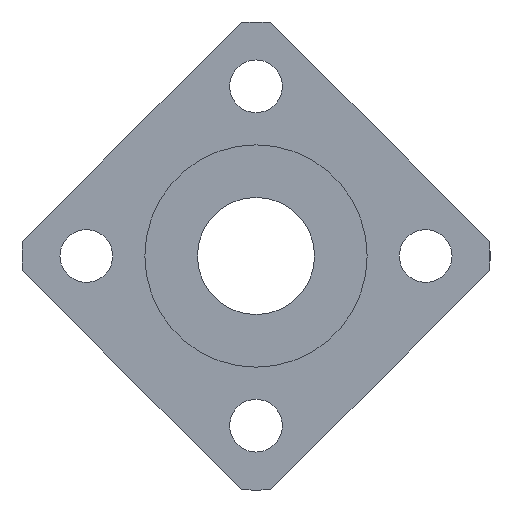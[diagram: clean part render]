
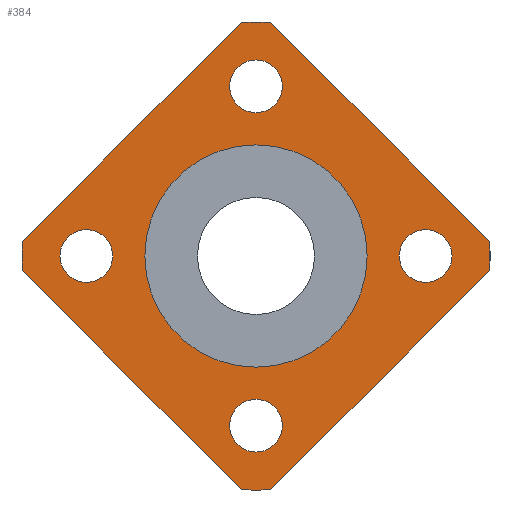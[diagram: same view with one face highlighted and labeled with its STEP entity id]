
A CAD part, left-side view. The second image highlights one B-rep face of the part: STEP entity #384.
In plain terms, the highlighted planar face has unit normal (-1, 0, 0).
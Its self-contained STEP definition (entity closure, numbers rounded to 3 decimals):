
#26=PLANE('',#445);
#41=LINE('',#664,#57);
#42=LINE('',#665,#58);
#43=LINE('',#666,#59);
#44=LINE('',#670,#60);
#57=VECTOR('',#546,1000.);
#58=VECTOR('',#547,1000.);
#59=VECTOR('',#548,1000.);
#60=VECTOR('',#551,1000.);
#102=ORIENTED_EDGE('',*,*,#184,.T.);
#103=ORIENTED_EDGE('',*,*,#155,.F.);
#104=ORIENTED_EDGE('',*,*,#185,.T.);
#105=ORIENTED_EDGE('',*,*,#159,.F.);
#106=ORIENTED_EDGE('',*,*,#186,.T.);
#107=ORIENTED_EDGE('',*,*,#187,.F.);
#108=ORIENTED_EDGE('',*,*,#188,.T.);
#109=ORIENTED_EDGE('',*,*,#153,.F.);
#110=ORIENTED_EDGE('',*,*,#189,.T.);
#111=ORIENTED_EDGE('',*,*,#190,.T.);
#112=ORIENTED_EDGE('',*,*,#191,.T.);
#113=ORIENTED_EDGE('',*,*,#192,.T.);
#114=ORIENTED_EDGE('',*,*,#172,.T.);
#153=EDGE_CURVE('',#197,#198,#232,.T.);
#155=EDGE_CURVE('',#199,#200,#233,.T.);
#159=EDGE_CURVE('',#203,#204,#235,.T.);
#172=EDGE_CURVE('',#216,#216,#246,.T.);
#184=EDGE_CURVE('',#197,#200,#41,.T.);
#185=EDGE_CURVE('',#199,#204,#42,.T.);
#186=EDGE_CURVE('',#203,#225,#43,.T.);
#187=EDGE_CURVE('',#226,#225,#254,.T.);
#188=EDGE_CURVE('',#226,#198,#44,.T.);
#189=EDGE_CURVE('',#227,#227,#255,.T.);
#190=EDGE_CURVE('',#228,#228,#256,.T.);
#191=EDGE_CURVE('',#229,#229,#257,.T.);
#192=EDGE_CURVE('',#230,#230,#258,.T.);
#197=VERTEX_POINT('',#594);
#198=VERTEX_POINT('',#596);
#199=VERTEX_POINT('',#600);
#200=VERTEX_POINT('',#601);
#203=VERTEX_POINT('',#609);
#204=VERTEX_POINT('',#610);
#216=VERTEX_POINT('',#640);
#225=VERTEX_POINT('',#667);
#226=VERTEX_POINT('',#669);
#227=VERTEX_POINT('',#672);
#228=VERTEX_POINT('',#674);
#229=VERTEX_POINT('',#676);
#230=VERTEX_POINT('',#678);
#232=CIRCLE('',#413,20.);
#233=CIRCLE('',#415,20.);
#235=CIRCLE('',#418,20.);
#246=CIRCLE('',#434,9.5);
#254=CIRCLE('',#446,20.);
#255=CIRCLE('',#447,2.25);
#256=CIRCLE('',#448,2.25);
#257=CIRCLE('',#449,2.25);
#258=CIRCLE('',#450,2.25);
#282=EDGE_LOOP('',(#102,#103,#104,#105,#106,#107,#108,#109));
#283=EDGE_LOOP('',(#110));
#284=EDGE_LOOP('',(#111));
#285=EDGE_LOOP('',(#112));
#286=EDGE_LOOP('',(#113));
#287=EDGE_LOOP('',(#114));
#332=FACE_BOUND('',#282,.T.);
#333=FACE_BOUND('',#283,.T.);
#334=FACE_BOUND('',#284,.T.);
#335=FACE_BOUND('',#285,.T.);
#336=FACE_BOUND('',#286,.T.);
#337=FACE_BOUND('',#287,.T.);
#384=ADVANCED_FACE('',(#332,#333,#334,#335,#336,#337),#26,.F.);
#413=AXIS2_PLACEMENT_3D('',#595,#471,#472);
#415=AXIS2_PLACEMENT_3D('',#599,#476,#477);
#418=AXIS2_PLACEMENT_3D('',#608,#484,#485);
#434=AXIS2_PLACEMENT_3D('',#639,#518,#519);
#445=AXIS2_PLACEMENT_3D('',#663,#544,#545);
#446=AXIS2_PLACEMENT_3D('',#668,#549,#550);
#447=AXIS2_PLACEMENT_3D('',#671,#552,#553);
#448=AXIS2_PLACEMENT_3D('',#673,#554,#555);
#449=AXIS2_PLACEMENT_3D('',#675,#556,#557);
#450=AXIS2_PLACEMENT_3D('',#677,#558,#559);
#471=DIRECTION('',(1.,0.,0.));
#472=DIRECTION('',(0.,0.,-1.));
#476=DIRECTION('',(1.,0.,0.));
#477=DIRECTION('',(0.,0.,-1.));
#484=DIRECTION('',(1.,0.,0.));
#485=DIRECTION('',(0.,0.,-1.));
#518=DIRECTION('',(1.,0.,0.));
#519=DIRECTION('',(0.,0.,-1.));
#544=DIRECTION('',(1.,0.,0.));
#545=DIRECTION('',(0.,0.,-1.));
#546=DIRECTION('',(0.,0.707,0.707));
#547=DIRECTION('',(0.,0.707,-0.707));
#548=DIRECTION('',(0.,-0.707,-0.707));
#549=DIRECTION('',(1.,0.,0.));
#550=DIRECTION('',(0.,0.,-1.));
#551=DIRECTION('',(0.,-0.707,0.707));
#552=DIRECTION('',(1.,0.,0.));
#553=DIRECTION('',(0.,0.,-1.));
#554=DIRECTION('',(1.,0.,0.));
#555=DIRECTION('',(0.,0.,-1.));
#556=DIRECTION('',(1.,0.,0.));
#557=DIRECTION('',(0.,0.,-1.));
#558=DIRECTION('',(1.,0.,0.));
#559=DIRECTION('',(0.,0.,-1.));
#594=CARTESIAN_POINT('',(21.5,-19.961,1.252));
#595=CARTESIAN_POINT('',(21.5,0.,0.));
#596=CARTESIAN_POINT('',(21.5,-19.961,-1.252));
#599=CARTESIAN_POINT('',(21.5,0.,0.));
#600=CARTESIAN_POINT('',(21.5,1.252,19.961));
#601=CARTESIAN_POINT('',(21.5,-1.252,19.961));
#608=CARTESIAN_POINT('',(21.5,0.,0.));
#609=CARTESIAN_POINT('',(21.5,19.961,-1.252));
#610=CARTESIAN_POINT('',(21.5,19.961,1.252));
#639=CARTESIAN_POINT('',(21.5,0.,0.));
#640=CARTESIAN_POINT('',(21.5,0.,-9.5));
#663=CARTESIAN_POINT('',(21.5,0.,0.));
#664=CARTESIAN_POINT('',(21.5,0.,21.213));
#665=CARTESIAN_POINT('',(21.5,21.213,0.));
#666=CARTESIAN_POINT('',(21.5,0.,-21.213));
#667=CARTESIAN_POINT('',(21.5,1.252,-19.961));
#668=CARTESIAN_POINT('',(21.5,0.,0.));
#669=CARTESIAN_POINT('',(21.5,-1.252,-19.961));
#670=CARTESIAN_POINT('',(21.5,-21.213,0.));
#671=CARTESIAN_POINT('',(21.5,0.,-14.5));
#672=CARTESIAN_POINT('',(21.5,0.,-16.75));
#673=CARTESIAN_POINT('',(21.5,-14.5,0.));
#674=CARTESIAN_POINT('',(21.5,-14.5,-2.25));
#675=CARTESIAN_POINT('',(21.5,0.,14.5));
#676=CARTESIAN_POINT('',(21.5,0.,12.25));
#677=CARTESIAN_POINT('',(21.5,14.5,0.));
#678=CARTESIAN_POINT('',(21.5,14.5,-2.25));
